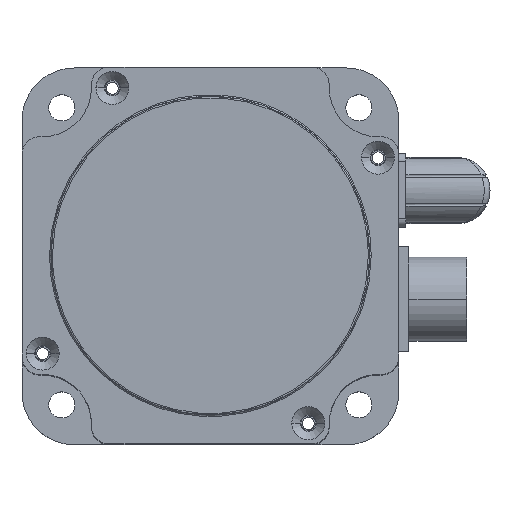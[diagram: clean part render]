
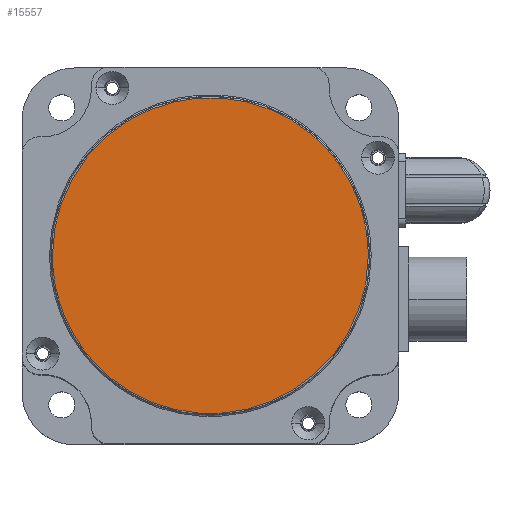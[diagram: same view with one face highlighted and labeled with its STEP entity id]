
A CAD part, top view. The second image highlights one B-rep face of the part: STEP entity #15557.
In plain terms, the highlighted planar face has unit normal (0, 0, 1).
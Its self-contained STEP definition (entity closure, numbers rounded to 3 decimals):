
#14079 =( BOUNDED_CURVE ( )  B_SPLINE_CURVE ( 3, ( #14127, #14126, #14125, #14124 ),
 .UNSPECIFIED., .F., .T. ) 
 B_SPLINE_CURVE_WITH_KNOTS ( ( 4, 4 ),
 ( 0., 1. ),
 .UNSPECIFIED. ) 
 CURVE ( )  GEOMETRIC_REPRESENTATION_ITEM ( )  RATIONAL_B_SPLINE_CURVE ( ( 1., 0.333, 0.333, 1. ) ) 
 REPRESENTATION_ITEM ( '' )  );
#14080 = CARTESIAN_POINT ( 'NONE',  ( 79.729, -39.691, 168. ) ) ;
#14124 = CARTESIAN_POINT ( 'NONE',  ( -29.271, -39.691, 168. ) ) ;
#14125 = CARTESIAN_POINT ( 'NONE',  ( -29.271, -148.691, 168. ) ) ;
#14126 = CARTESIAN_POINT ( 'NONE',  ( 79.729, -148.691, 168. ) ) ;
#14127 = CARTESIAN_POINT ( 'NONE',  ( 79.729, -39.691, 168. ) ) ;
#14128 = CARTESIAN_POINT ( 'NONE',  ( -29.271, -39.691, 168. ) ) ;
#15417 = VERTEX_POINT ( 'NONE', #14080 ) ;
#15419 = EDGE_CURVE ( 'NONE', #15417, #15420, #14079, .T. ) ;
#15420 = VERTEX_POINT ( 'NONE', #14128 ) ;
#15503 = ORIENTED_EDGE ( 'NONE', *, *, #15419, .F. ) ;
#15557 = ADVANCED_FACE ( 'NONE', ( #17024 ), #17023, .F. ) ;
#15558 = EDGE_LOOP ( 'NONE', ( #15559, #15503 ) ) ;
#15559 = ORIENTED_EDGE ( 'NONE', *, *, #15560, .F. ) ;
#15560 = EDGE_CURVE ( 'NONE', #15420, #15417, #17071, .T. ) ;
#17019 = DIRECTION ( 'NONE',  ( -1., 0., 0. ) ) ;
#17020 = DIRECTION ( 'NONE',  ( 0., 0., -1. ) ) ;
#17021 = AXIS2_PLACEMENT_3D ( 'NONE', #17022, #17020, #17019 ) ;
#17022 = CARTESIAN_POINT ( 'NONE',  ( 90.229, -104.691, 168. ) ) ;
#17023 = PLANE ( 'NONE',  #17021 ) ;
#17024 = FACE_OUTER_BOUND ( 'NONE', #15558, .T. ) ;
#17067 = CARTESIAN_POINT ( 'NONE',  ( 79.729, -39.691, 168. ) ) ;
#17068 = CARTESIAN_POINT ( 'NONE',  ( 79.729, 69.309, 168. ) ) ;
#17069 = CARTESIAN_POINT ( 'NONE',  ( -29.271, 69.309, 168. ) ) ;
#17070 = CARTESIAN_POINT ( 'NONE',  ( -29.271, -39.691, 168. ) ) ;
#17071 =( BOUNDED_CURVE ( )  B_SPLINE_CURVE ( 3, ( #17070, #17069, #17068, #17067 ),
 .UNSPECIFIED., .F., .T. ) 
 B_SPLINE_CURVE_WITH_KNOTS ( ( 4, 4 ),
 ( 0., 1. ),
 .UNSPECIFIED. ) 
 CURVE ( )  GEOMETRIC_REPRESENTATION_ITEM ( )  RATIONAL_B_SPLINE_CURVE ( ( 1., 0.333, 0.333, 1. ) ) 
 REPRESENTATION_ITEM ( '' )  );
